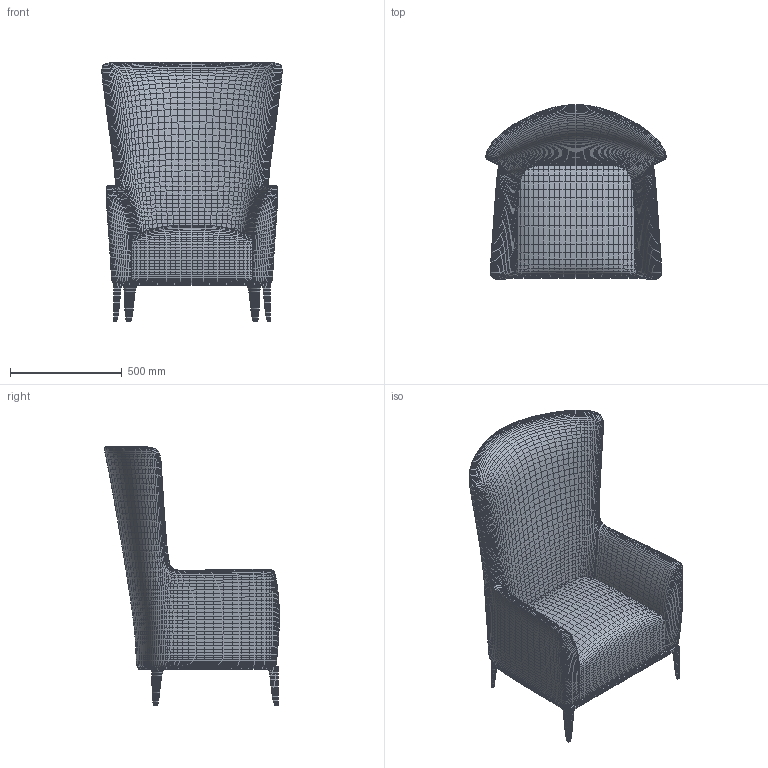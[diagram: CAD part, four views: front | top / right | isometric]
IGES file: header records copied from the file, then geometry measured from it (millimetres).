
Global section: file name: C:\Users\alberto\Dropbox\POLIFORM 3D model archive share\3dmodels repository\Poliform GENTLEMAN RESERVED armchair\Poliform GENTLEMAN RESERVED armchair.igs; native system: Rhinoceros ( May 22 2017 ); preprocessor: Trout Lake IGES 012 May 22 2017; date: 190520.115910; units: millimetre
Bounding box: 805.98 x 780.83 x 1161.85 mm (x, y, z)
Surface area: 3923935.9 mm2 (no closed solid volume)
Topology: 0 solids, 0 shells, 24870 faces, 99460 edges, 99460 vertices
Faces by surface type: bspline 24870
